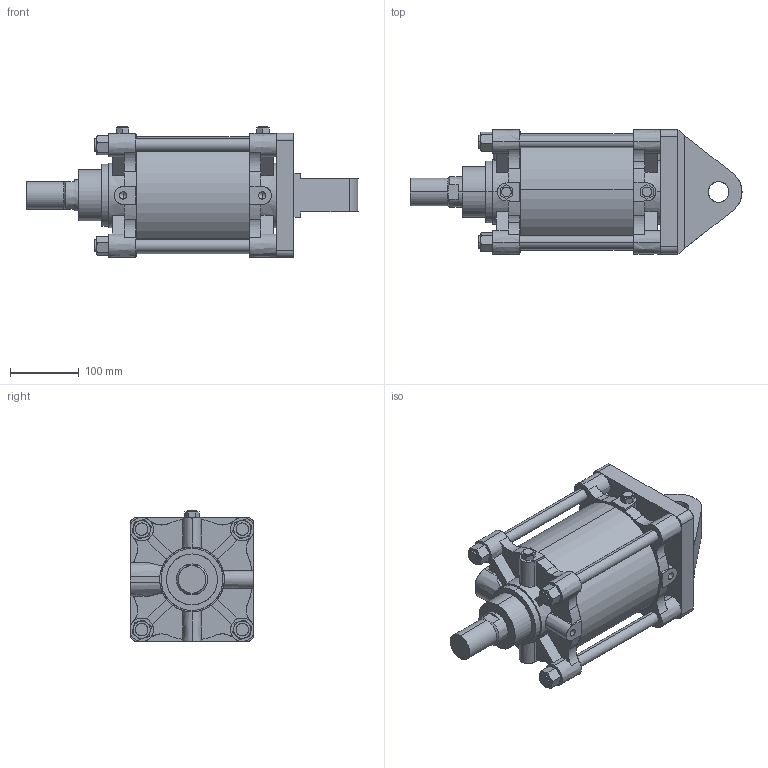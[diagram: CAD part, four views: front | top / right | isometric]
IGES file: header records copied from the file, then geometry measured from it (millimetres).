
Start section: SolidWorks IGES file using analytic representation for surfaces
Global section: file name: C:\Users\Toshiba\Desktop\A##2-160#-100-C.IGS; native system: SolidWorks 2014; preprocessor: SolidWorks 2014; author: Toshiba; date: 160331.145540; units: millimetre
Bounding box: 482 x 180 x 190 mm (x, y, z)
Surface area: 567367.2 mm2 (no closed solid volume)
Topology: 0 solids, 0 shells, 355 faces, 6712 edges, 6700 vertices
Faces by surface type: bspline 206, revolution 149
